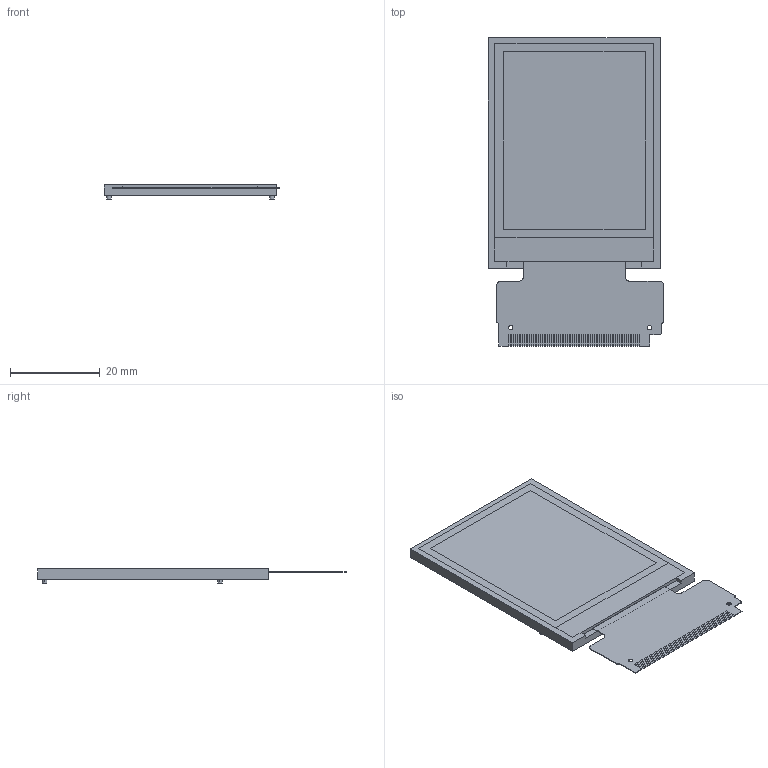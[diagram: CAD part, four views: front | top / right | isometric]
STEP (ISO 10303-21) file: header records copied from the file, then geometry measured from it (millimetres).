
FILE_DESCRIPTION (( 'STEP AP214' ), '1' );
FILE_NAME ('CFAF176220U-020T.STEP', '2020-12-17T16:27:58', ( '' ), ( '' ), 'SwSTEP 2.0', 'SolidWorks 2020', '' );
FILE_SCHEMA (( 'AUTOMOTIVE_DESIGN' ));
Length unit declared in the file: millimetre
Products named in the file (1): CFAF176220U-020T
Bounding box: 39.15 x 68.8 x 3.19 mm (x, y, z)
Volume: 4683.1 mm3; surface area: 5755.5 mm2
Topology: 39 solids, 39 shells, 343 faces, 947 edges, 684 vertices
Faces by surface type: plane 328, cylinder 15
Entity records: 13798 total; most frequent: CARTESIAN_POINT 1975, ORIENTED_EDGE 1894, DIRECTION 1669, EDGE_CURVE 947, LINE 913, VECTOR 913, VERTEX_POINT 684, AXIS2_PLACEMENT_3D 378
